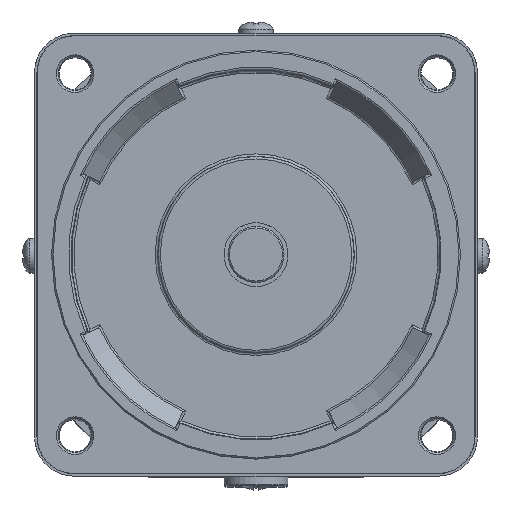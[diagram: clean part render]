
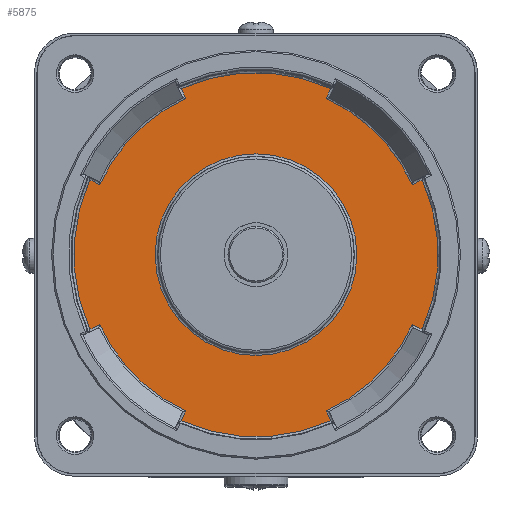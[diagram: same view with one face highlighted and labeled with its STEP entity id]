
A CAD part, top view. The second image highlights one B-rep face of the part: STEP entity #5875.
In plain terms, the highlighted planar face has unit normal (0, 0, 1).
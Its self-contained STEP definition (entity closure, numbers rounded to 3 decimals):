
#1 = CARTESIAN_POINT ( 'NONE',  ( -34.198, 15.395, -2. ) ) ;
#15 = EDGE_CURVE ( 'NONE', #9695, #9695, #10092, .T. ) ;
#139 = DIRECTION ( 'NONE',  ( -0.423, -0.906, 0. ) ) ;
#188 = ORIENTED_EDGE ( 'NONE', *, *, #8568, .T. ) ;
#269 = DIRECTION ( 'NONE',  ( 1., 0., 0. ) ) ;
#332 = VECTOR ( 'NONE', #3804, 1000. ) ;
#350 = DIRECTION ( 'NONE',  ( 0., 0., 1. ) ) ;
#452 = VERTEX_POINT ( 'NONE', #8650 ) ;
#498 = DIRECTION ( 'NONE',  ( 0., 0., 1. ) ) ;
#650 = LINE ( 'NONE', #12654, #12270 ) ;
#883 = CARTESIAN_POINT ( 'NONE',  ( -14.242, 31.725, -2. ) ) ;
#892 = EDGE_CURVE ( 'NONE', #8653, #3699, #6868, .T. ) ;
#1000 = EDGE_CURVE ( 'NONE', #452, #8328, #10098, .T. ) ;
#1026 = ORIENTED_EDGE ( 'NONE', *, *, #892, .T. ) ;
#1279 = EDGE_CURVE ( 'NONE', #9818, #9157, #10714, .T. ) ;
#1338 = DIRECTION ( 'NONE',  ( -0.906, 0.423, 0. ) ) ;
#1394 = CARTESIAN_POINT ( 'NONE',  ( -15.395, -34.198, -2. ) ) ;
#1502 = EDGE_CURVE ( 'NONE', #4674, #9547, #2329, .T. ) ;
#1694 = CARTESIAN_POINT ( 'NONE',  ( -33.753, 15.188, -2. ) ) ;
#1782 = VERTEX_POINT ( 'NONE', #11241 ) ;
#1903 = DIRECTION ( 'NONE',  ( 0., 0., 1. ) ) ;
#2329 = CIRCLE ( 'NONE', #4587, 37.013 ) ;
#2375 = CARTESIAN_POINT ( 'NONE',  ( -15.188, -33.753, -2. ) ) ;
#2478 = ORIENTED_EDGE ( 'NONE', *, *, #1279, .T. ) ;
#2504 = VERTEX_POINT ( 'NONE', #4193 ) ;
#3003 = DIRECTION ( 'NONE',  ( 1., 0., 0. ) ) ;
#3034 = VERTEX_POINT ( 'NONE', #9276 ) ;
#3042 = EDGE_CURVE ( 'NONE', #4075, #1782, #5042, .T. ) ;
#3062 = ORIENTED_EDGE ( 'NONE', *, *, #8914, .T. ) ;
#3175 = DIRECTION ( 'NONE',  ( 0., 0., 1. ) ) ;
#3331 = DIRECTION ( 'NONE',  ( 1., 0., 0. ) ) ;
#3699 = VERTEX_POINT ( 'NONE', #7385 ) ;
#3804 = DIRECTION ( 'NONE',  ( 0.423, 0.906, 0. ) ) ;
#3897 = VERTEX_POINT ( 'NONE', #13814 ) ;
#3961 = VECTOR ( 'NONE', #12773, 1000. ) ;
#4056 = ORIENTED_EDGE ( 'NONE', *, *, #1502, .T. ) ;
#4075 = VERTEX_POINT ( 'NONE', #1694 ) ;
#4193 = CARTESIAN_POINT ( 'NONE',  ( 31.725, -14.242, -2. ) ) ;
#4211 = CARTESIAN_POINT ( 'NONE',  ( 0.453, 0.211, -2. ) ) ;
#4474 = DIRECTION ( 'NONE',  ( -0.423, 0.906, 0. ) ) ;
#4570 = DIRECTION ( 'NONE',  ( 0., 0., 1. ) ) ;
#4587 = AXIS2_PLACEMENT_3D ( 'NONE', #6790, #3175, #3331 ) ;
#4614 = EDGE_CURVE ( 'NONE', #7937, #3034, #11007, .T. ) ;
#4637 = CARTESIAN_POINT ( 'NONE',  ( -31.725, 14.242, -2. ) ) ;
#4674 = VERTEX_POINT ( 'NONE', #2375 ) ;
#4678 = AXIS2_PLACEMENT_3D ( 'NONE', #11384, #5193, #5421 ) ;
#4683 = CARTESIAN_POINT ( 'NONE',  ( -31.725, -14.242, -2. ) ) ;
#4772 = ORIENTED_EDGE ( 'NONE', *, *, #5012, .T. ) ;
#4824 = EDGE_CURVE ( 'NONE', #8328, #14601, #13261, .T. ) ;
#4859 = EDGE_CURVE ( 'NONE', #12515, #9818, #15256, .T. ) ;
#4926 = CARTESIAN_POINT ( 'NONE',  ( 31.725, 14.242, -2. ) ) ;
#4997 = AXIS2_PLACEMENT_3D ( 'NONE', #12501, #5125, #13520 ) ;
#5012 = EDGE_CURVE ( 'NONE', #3034, #12515, #650, .T. ) ;
#5042 = CIRCLE ( 'NONE', #5293, 37.013 ) ;
#5125 = DIRECTION ( 'NONE',  ( 0., 0., 1. ) ) ;
#5193 = DIRECTION ( 'NONE',  ( 0., 0., 1. ) ) ;
#5293 = AXIS2_PLACEMENT_3D ( 'NONE', #13988, #4570, #3003 ) ;
#5352 = CARTESIAN_POINT ( 'NONE',  ( 0., 0., -2. ) ) ;
#5374 = ORIENTED_EDGE ( 'NONE', *, *, #15, .T. ) ;
#5421 = DIRECTION ( 'NONE',  ( 1., 0., 0. ) ) ;
#5492 = AXIS2_PLACEMENT_3D ( 'NONE', #5352, #498, #11304 ) ;
#5626 = ORIENTED_EDGE ( 'NONE', *, *, #4824, .T. ) ;
#5657 = CARTESIAN_POINT ( 'NONE',  ( -0.453, -0.211, -2. ) ) ;
#5742 = EDGE_CURVE ( 'NONE', #1782, #8653, #6636, .T. ) ;
#5814 = LINE ( 'NONE', #5657, #8961 ) ;
#5875 = ADVANCED_FACE ( 'NONE', ( #13368, #15477 ), #8346, .T. ) ;
#5995 = CARTESIAN_POINT ( 'NONE',  ( 0., 0., -2. ) ) ;
#6003 = AXIS2_PLACEMENT_3D ( 'NONE', #14149, #1903, #9285 ) ;
#6621 = EDGE_CURVE ( 'NONE', #2504, #7937, #7043, .T. ) ;
#6636 = LINE ( 'NONE', #15185, #3961 ) ;
#6790 = CARTESIAN_POINT ( 'NONE',  ( 0., 0., -2. ) ) ;
#6868 = CIRCLE ( 'NONE', #7848, 34.775 ) ;
#7043 = LINE ( 'NONE', #11988, #8000 ) ;
#7086 = VECTOR ( 'NONE', #13483, 1000. ) ;
#7189 = CIRCLE ( 'NONE', #4678, 34.775 ) ;
#7242 = ORIENTED_EDGE ( 'NONE', *, *, #11951, .T. ) ;
#7385 = CARTESIAN_POINT ( 'NONE',  ( -14.242, -31.725, -2. ) ) ;
#7848 = AXIS2_PLACEMENT_3D ( 'NONE', #9941, #11277, #11051 ) ;
#7937 = VERTEX_POINT ( 'NONE', #8661 ) ;
#8000 = VECTOR ( 'NONE', #10891, 1000. ) ;
#8273 = EDGE_CURVE ( 'NONE', #9547, #3897, #5814, .T. ) ;
#8328 = VERTEX_POINT ( 'NONE', #883 ) ;
#8346 = PLANE ( 'NONE',  #14006 ) ;
#8420 = DIRECTION ( 'NONE',  ( 0., 0., 1. ) ) ;
#8462 = ORIENTED_EDGE ( 'NONE', *, *, #8273, .T. ) ;
#8527 = LINE ( 'NONE', #1394, #13734 ) ;
#8568 = EDGE_CURVE ( 'NONE', #3699, #4674, #8527, .T. ) ;
#8650 = CARTESIAN_POINT ( 'NONE',  ( -15.188, 33.753, -2. ) ) ;
#8653 = VERTEX_POINT ( 'NONE', #4683 ) ;
#8661 = CARTESIAN_POINT ( 'NONE',  ( 33.753, -15.188, -2. ) ) ;
#8812 = CARTESIAN_POINT ( 'NONE',  ( 0., 0., -2. ) ) ;
#8914 = EDGE_CURVE ( 'NONE', #9157, #452, #11197, .T. ) ;
#8961 = VECTOR ( 'NONE', #4474, 1000. ) ;
#9028 = EDGE_LOOP ( 'NONE', ( #11144, #9479, #15432, #4772, #9188, #2478, #3062, #9116, #5626, #7242, #15392, #10185, #1026, #188, #4056, #8462 ) ) ;
#9067 = EDGE_CURVE ( 'NONE', #3897, #2504, #7189, .T. ) ;
#9116 = ORIENTED_EDGE ( 'NONE', *, *, #1000, .T. ) ;
#9157 = VERTEX_POINT ( 'NONE', #15448 ) ;
#9188 = ORIENTED_EDGE ( 'NONE', *, *, #4859, .T. ) ;
#9276 = CARTESIAN_POINT ( 'NONE',  ( 33.753, 15.188, -2. ) ) ;
#9285 = DIRECTION ( 'NONE',  ( 1., 0., 0. ) ) ;
#9445 = CARTESIAN_POINT ( 'NONE',  ( 0., 0., -2. ) ) ;
#9479 = ORIENTED_EDGE ( 'NONE', *, *, #6621, .T. ) ;
#9547 = VERTEX_POINT ( 'NONE', #12459 ) ;
#9617 = CARTESIAN_POINT ( 'NONE',  ( 15.395, 34.198, -2. ) ) ;
#9695 = VERTEX_POINT ( 'NONE', #13314 ) ;
#9818 = VERTEX_POINT ( 'NONE', #12374 ) ;
#9941 = CARTESIAN_POINT ( 'NONE',  ( 0., 0., -2. ) ) ;
#10003 = DIRECTION ( 'NONE',  ( 1., 0., 0. ) ) ;
#10092 = CIRCLE ( 'NONE', #10337, 20.491 ) ;
#10098 = LINE ( 'NONE', #4211, #7086 ) ;
#10185 = ORIENTED_EDGE ( 'NONE', *, *, #5742, .T. ) ;
#10202 = DIRECTION ( 'NONE',  ( -0.906, -0.423, 0. ) ) ;
#10337 = AXIS2_PLACEMENT_3D ( 'NONE', #8812, #13462, #10003 ) ;
#10370 = EDGE_LOOP ( 'NONE', ( #5374 ) ) ;
#10714 = LINE ( 'NONE', #9617, #332 ) ;
#10891 = DIRECTION ( 'NONE',  ( 0.906, -0.423, 0. ) ) ;
#11007 = CIRCLE ( 'NONE', #6003, 37.013 ) ;
#11051 = DIRECTION ( 'NONE',  ( 1., 0., 0. ) ) ;
#11144 = ORIENTED_EDGE ( 'NONE', *, *, #9067, .T. ) ;
#11197 = CIRCLE ( 'NONE', #11954, 37.013 ) ;
#11241 = CARTESIAN_POINT ( 'NONE',  ( -33.753, -15.188, -2. ) ) ;
#11277 = DIRECTION ( 'NONE',  ( 0., 0., 1. ) ) ;
#11304 = DIRECTION ( 'NONE',  ( 1., 0., 0. ) ) ;
#11384 = CARTESIAN_POINT ( 'NONE',  ( 0., 0., -2. ) ) ;
#11486 = VECTOR ( 'NONE', #1338, 1000. ) ;
#11951 = EDGE_CURVE ( 'NONE', #14601, #4075, #13180, .T. ) ;
#11954 = AXIS2_PLACEMENT_3D ( 'NONE', #9445, #350, #13367 ) ;
#11988 = CARTESIAN_POINT ( 'NONE',  ( 34.198, -15.395, -2. ) ) ;
#12270 = VECTOR ( 'NONE', #10202, 1000. ) ;
#12374 = CARTESIAN_POINT ( 'NONE',  ( 14.242, 31.725, -2. ) ) ;
#12459 = CARTESIAN_POINT ( 'NONE',  ( 15.188, -33.753, -2. ) ) ;
#12501 = CARTESIAN_POINT ( 'NONE',  ( 0., 0., -2. ) ) ;
#12515 = VERTEX_POINT ( 'NONE', #4926 ) ;
#12654 = CARTESIAN_POINT ( 'NONE',  ( 0.211, -0.453, -2. ) ) ;
#12773 = DIRECTION ( 'NONE',  ( 0.906, 0.423, 0. ) ) ;
#13180 = LINE ( 'NONE', #1, #11486 ) ;
#13261 = CIRCLE ( 'NONE', #4997, 34.775 ) ;
#13314 = CARTESIAN_POINT ( 'NONE',  ( 20.491, 0., -2. ) ) ;
#13367 = DIRECTION ( 'NONE',  ( 1., 0., 0. ) ) ;
#13368 = FACE_OUTER_BOUND ( 'NONE', #9028, .T. ) ;
#13462 = DIRECTION ( 'NONE',  ( 0., 0., -1. ) ) ;
#13483 = DIRECTION ( 'NONE',  ( 0.423, -0.906, 0. ) ) ;
#13520 = DIRECTION ( 'NONE',  ( 1., 0., 0. ) ) ;
#13734 = VECTOR ( 'NONE', #139, 1000. ) ;
#13814 = CARTESIAN_POINT ( 'NONE',  ( 14.242, -31.725, -2. ) ) ;
#13988 = CARTESIAN_POINT ( 'NONE',  ( 0., 0., -2. ) ) ;
#14006 = AXIS2_PLACEMENT_3D ( 'NONE', #5995, #8420, #269 ) ;
#14149 = CARTESIAN_POINT ( 'NONE',  ( 0., 0., -2. ) ) ;
#14601 = VERTEX_POINT ( 'NONE', #4637 ) ;
#15185 = CARTESIAN_POINT ( 'NONE',  ( -0.211, 0.453, -2. ) ) ;
#15256 = CIRCLE ( 'NONE', #5492, 34.775 ) ;
#15392 = ORIENTED_EDGE ( 'NONE', *, *, #3042, .T. ) ;
#15432 = ORIENTED_EDGE ( 'NONE', *, *, #4614, .T. ) ;
#15448 = CARTESIAN_POINT ( 'NONE',  ( 15.188, 33.753, -2. ) ) ;
#15477 = FACE_BOUND ( 'NONE', #10370, .T. ) ;
